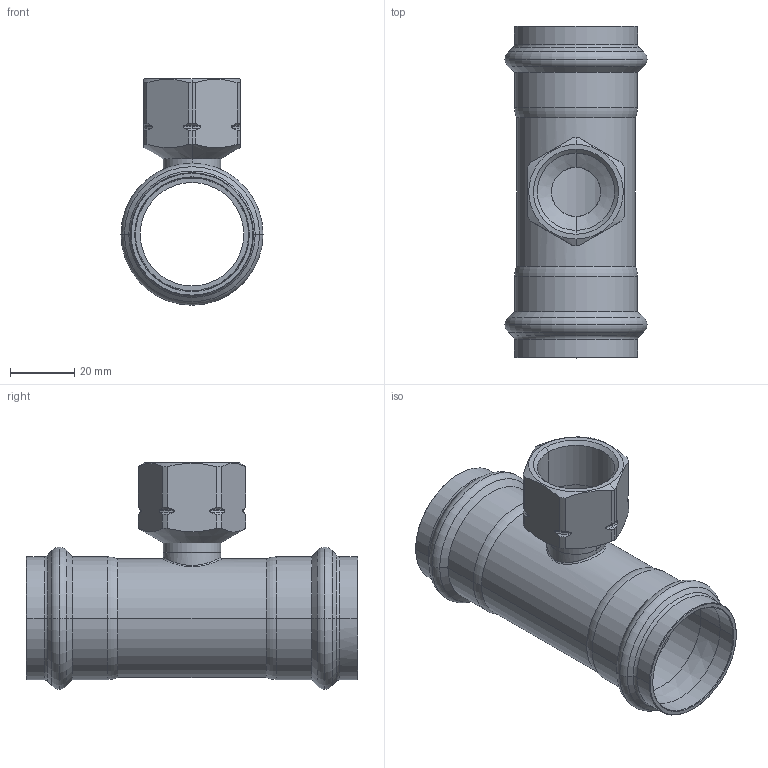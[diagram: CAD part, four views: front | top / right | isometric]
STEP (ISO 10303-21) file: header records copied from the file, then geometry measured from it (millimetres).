
FILE_DESCRIPTION(('CoCreate Modeling STEP Export'),'2;1');
FILE_NAME('8130GVW353435.stp','2013-02-12T12:58:09',(''),(''),'CoCreate Modeling STEP processor for AP214 (Solid Model)','CoCreate Modeling 17.00A 17-Jun-2010 (C) Parametric Technology GmbH','');
FILE_SCHEMA(('AUTOMOTIVE_DESIGN { 1 0 10303 214 1 1 1 1 }'));
Length unit declared in the file: millimetre
Products named in the file (1): 8130GVW353435
Bounding box: 44.3 x 103.51 x 70.65 mm (x, y, z)
Volume: 29929.6 mm3; surface area: 30455.5 mm2
Topology: 1 solids, 1 shells, 157 faces, 378 edges, 228 vertices
Faces by surface type: cylinder 50, cone 46, torus 44, plane 13, bspline 4
Entity records: 9141 total; most frequent: CARTESIAN_POINT 6149, ORIENTED_EDGE 756, DIRECTION 446, EDGE_CURVE 378, VERTEX_POINT 228, AXIS2_PLACEMENT_3D 181, EDGE_LOOP 166, FACE_OUTER_BOUND 157
